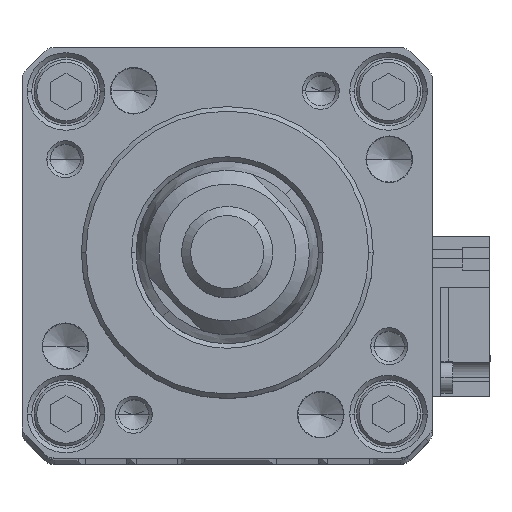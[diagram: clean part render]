
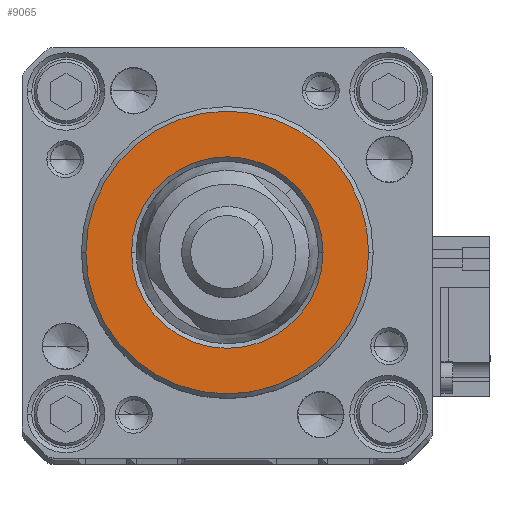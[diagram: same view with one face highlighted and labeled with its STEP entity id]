
A CAD part, top view. The second image highlights one B-rep face of the part: STEP entity #9065.
In plain terms, the highlighted planar face has unit normal (0, 0, 1).
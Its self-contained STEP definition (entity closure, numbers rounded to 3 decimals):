
#60 = AXIS2_PLACEMENT_3D ( 'NONE', #7472, #22001, #9546 ) ;
#61 = DIRECTION ( 'NONE',  ( 0., 0., 1. ) ) ;
#1904 = EDGE_LOOP ( 'NONE', ( #13894, #6941 ) ) ;
#2843 = CARTESIAN_POINT ( 'NONE',  ( -15.5, 0., 407. ) ) ;
#3883 = AXIS2_PLACEMENT_3D ( 'NONE', #17774, #5328, #19853 ) ;
#5061 = CIRCLE ( 'NONE', #25423, 15.5 ) ;
#5213 = PLANE ( 'NONE',  #24347 ) ;
#5328 = DIRECTION ( 'NONE',  ( 0., 0., -1. ) ) ;
#5488 = EDGE_CURVE ( 'NONE', #17907, #10295, #22062, .T. ) ;
#5602 = CARTESIAN_POINT ( 'NONE',  ( 0., 0., 407. ) ) ;
#6941 = ORIENTED_EDGE ( 'NONE', *, *, #8094, .T. ) ;
#7283 = DIRECTION ( 'NONE',  ( 1., 0., 0. ) ) ;
#7472 = CARTESIAN_POINT ( 'NONE',  ( 0., 0., 407. ) ) ;
#7690 = DIRECTION ( 'NONE',  ( 1., 0., 0. ) ) ;
#8094 = EDGE_CURVE ( 'NONE', #23430, #22769, #22704, .T. ) ;
#8462 = CARTESIAN_POINT ( 'NONE',  ( -10.5, 0., 407. ) ) ;
#8999 = CARTESIAN_POINT ( 'NONE',  ( 10.5, 0., 407. ) ) ;
#9065 = ADVANCED_FACE ( 'NONE', ( #15217, #25527 ), #5213, .T. ) ;
#9546 = DIRECTION ( 'NONE',  ( 1., 0., 0. ) ) ;
#10295 = VERTEX_POINT ( 'NONE', #15871 ) ;
#12145 = ORIENTED_EDGE ( 'NONE', *, *, #5488, .T. ) ;
#12421 = CARTESIAN_POINT ( 'NONE',  ( 0., 0., 407. ) ) ;
#12652 = AXIS2_PLACEMENT_3D ( 'NONE', #12421, #61, #14563 ) ;
#13894 = ORIENTED_EDGE ( 'NONE', *, *, #15252, .T. ) ;
#14563 = DIRECTION ( 'NONE',  ( 1., 0., 0. ) ) ;
#15217 = FACE_BOUND ( 'NONE', #1904, .T. ) ;
#15252 = EDGE_CURVE ( 'NONE', #22769, #23430, #20095, .T. ) ;
#15871 = CARTESIAN_POINT ( 'NONE',  ( 15.5, 0., 407. ) ) ;
#17347 = EDGE_LOOP ( 'NONE', ( #12145, #21829 ) ) ;
#17774 = CARTESIAN_POINT ( 'NONE',  ( 0., 0., 407. ) ) ;
#17907 = VERTEX_POINT ( 'NONE', #2843 ) ;
#19727 = DIRECTION ( 'NONE',  ( 0., 0., 1. ) ) ;
#19853 = DIRECTION ( 'NONE',  ( 1., 0., 0. ) ) ;
#20095 = CIRCLE ( 'NONE', #3883, 10.5 ) ;
#20133 = DIRECTION ( 'NONE',  ( 0., 0., 1. ) ) ;
#21829 = ORIENTED_EDGE ( 'NONE', *, *, #24366, .T. ) ;
#22001 = DIRECTION ( 'NONE',  ( 0., 0., -1. ) ) ;
#22062 = CIRCLE ( 'NONE', #12652, 15.5 ) ;
#22704 = CIRCLE ( 'NONE', #60, 10.5 ) ;
#22769 = VERTEX_POINT ( 'NONE', #8999 ) ;
#23430 = VERTEX_POINT ( 'NONE', #8462 ) ;
#24347 = AXIS2_PLACEMENT_3D ( 'NONE', #25842, #19727, #7283 ) ;
#24366 = EDGE_CURVE ( 'NONE', #10295, #17907, #5061, .T. ) ;
#25423 = AXIS2_PLACEMENT_3D ( 'NONE', #5602, #20133, #7690 ) ;
#25527 = FACE_OUTER_BOUND ( 'NONE', #17347, .T. ) ;
#25842 = CARTESIAN_POINT ( 'NONE',  ( 0., 0., 407. ) ) ;
